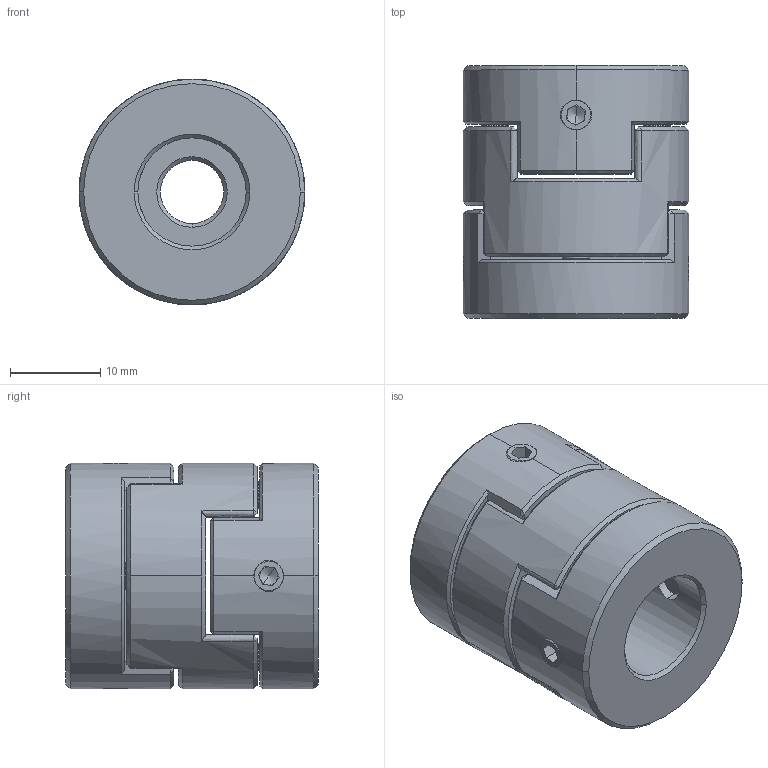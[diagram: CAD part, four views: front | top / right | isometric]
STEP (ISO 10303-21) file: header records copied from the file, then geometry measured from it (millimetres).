
FILE_DESCRIPTION (( 'STEP AP203' ), '1' );
FILE_NAME ('LZ-D-D25L28-7-12.STEP', '2021-10-30T02:18:50', ( '' ), ( '' ), 'SwSTEP 2.0', 'SolidWorks 2018', '' );
FILE_SCHEMA (( 'CONFIG_CONTROL_DESIGN' ));
Length unit declared in the file: millimetre
Products named in the file (1): LZ-D-D25L28-7-12
Bounding box: 25 x 28 x 25 mm (x, y, z)
Volume: 10947.5 mm3; surface area: 5529 mm2
Topology: 1 solids, 1 shells, 219 faces, 580 edges, 352 vertices
Faces by surface type: plane 89, cone 54, bspline 50, cylinder 26
Entity records: 9948 total; most frequent: CARTESIAN_POINT 4981, ORIENTED_EDGE 1144, DIRECTION 842, EDGE_CURVE 572, VERTEX_POINT 352, AXIS2_PLACEMENT_3D 306, EDGE_LOOP 234, VECTOR 230
